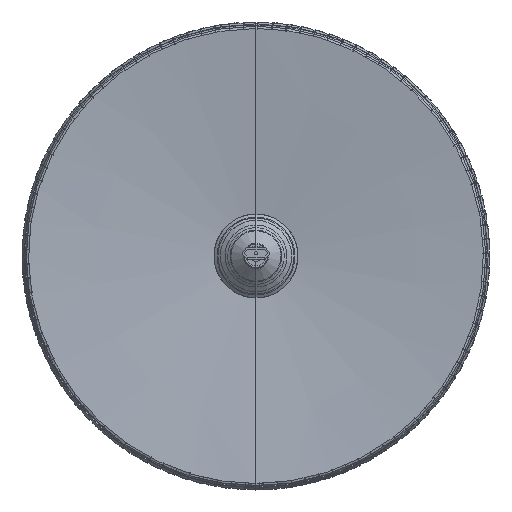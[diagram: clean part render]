
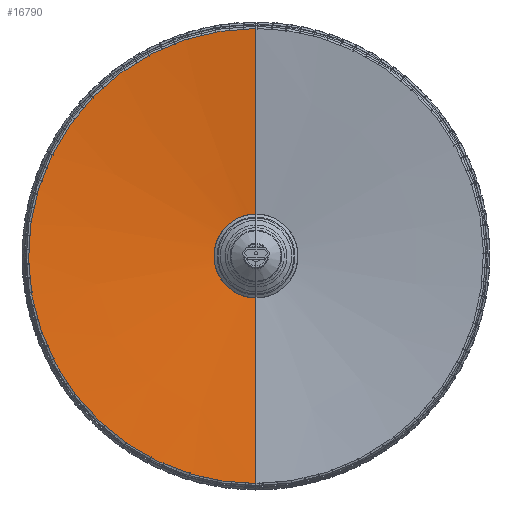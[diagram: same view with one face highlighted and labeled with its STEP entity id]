
A CAD part, top view. The second image highlights one B-rep face of the part: STEP entity #16790.
In plain terms, the highlighted conical face has half-angle 83.881 degrees and reference radius 62.359 mm.
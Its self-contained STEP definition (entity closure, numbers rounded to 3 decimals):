
#418=CONICAL_SURFACE('',#18116,62.359,1.464);
#1602=B_SPLINE_CURVE_WITH_KNOTS('',3,(#34768,#34769,#34770,#34771,#34772,
#34773,#34774,#34775,#34776,#34777,#34778,#34779,#34780,#34781,#34782,#34783,
#34784,#34785),.UNSPECIFIED.,.F.,.F.,(4,1,1,1,1,1,1,1,1,1,1,1,1,1,1,4),
(0.,0.067,0.133,0.2,0.267,0.333,
0.4,0.467,0.533,0.6,0.667,0.733,
0.8,0.867,0.933,1.),.UNSPECIFIED.);
#1605=B_SPLINE_CURVE_WITH_KNOTS('',3,(#34807,#34808,#34809,#34810,#34811,
#34812,#34813,#34814),.UNSPECIFIED.,.F.,.F.,(4,1,1,1,1,4),(0.172,
0.333,0.5,0.667,0.833,1.),
 .UNSPECIFIED.);
#1606=B_SPLINE_CURVE_WITH_KNOTS('',3,(#34815,#34816,#34817,#34818,#34819),
 .UNSPECIFIED.,.F.,.F.,(4,1,4),(0.,0.167,0.172),
 .UNSPECIFIED.);
#3026=FACE_OUTER_BOUND('',#4124,.T.);
#4124=EDGE_LOOP('',(#15191,#15192,#15193,#15194,#15195));
#5318=LINE('',#34788,#6511);
#5319=LINE('',#34804,#6512);
#6511=VECTOR('',#21731,304.8);
#6512=VECTOR('',#21732,304.8);
#8108=VERTEX_POINT('',#34643);
#8109=VERTEX_POINT('',#34696);
#8110=VERTEX_POINT('',#34787);
#8112=VERTEX_POINT('',#34798);
#8113=VERTEX_POINT('',#34806);
#10469=EDGE_CURVE('',#8108,#8109,#1602,.T.);
#10470=EDGE_CURVE('',#8110,#8108,#5318,.T.);
#10473=EDGE_CURVE('',#8109,#8112,#5319,.T.);
#10474=EDGE_CURVE('',#8113,#8112,#1605,.T.);
#10475=EDGE_CURVE('',#8110,#8113,#1606,.T.);
#15191=ORIENTED_EDGE('',*,*,#10469,.T.);
#15192=ORIENTED_EDGE('',*,*,#10473,.T.);
#15193=ORIENTED_EDGE('',*,*,#10474,.F.);
#15194=ORIENTED_EDGE('',*,*,#10475,.F.);
#15195=ORIENTED_EDGE('',*,*,#10470,.T.);
#16790=ADVANCED_FACE('',(#3026),#418,.F.);
#18116=AXIS2_PLACEMENT_3D('',#34805,#21733,#21734);
#21731=DIRECTION('',(0.,-0.994,-0.107));
#21732=DIRECTION('',(0.,-0.994,0.107));
#21733=DIRECTION('center_axis',(0.,0.,
-1.));
#21734=DIRECTION('ref_axis',(-0.588,0.809,0.));
#34643=CARTESIAN_POINT('',(0.,-278.169,-0.464));
#34696=CARTESIAN_POINT('',(0.,278.169,-0.464));
#34768=CARTESIAN_POINT('Ctrl Pts',(0.,-278.169,
-0.464));
#34769=CARTESIAN_POINT('Ctrl Pts',(-19.426,-278.2,
-0.464));
#34770=CARTESIAN_POINT('Ctrl Pts',(-58.256,-274.072,
-0.464));
#34771=CARTESIAN_POINT('Ctrl Pts',(-113.973,-255.989,
-0.464));
#34772=CARTESIAN_POINT('Ctrl Pts',(-164.703,-226.694,
-0.464));
#34773=CARTESIAN_POINT('Ctrl Pts',(-208.237,-187.497,
-0.464));
#34774=CARTESIAN_POINT('Ctrl Pts',(-242.669,-140.105,
-0.464));
#34775=CARTESIAN_POINT('Ctrl Pts',(-266.496,-86.59,
-0.464));
#34776=CARTESIAN_POINT('Ctrl Pts',(-278.675,-29.29,-0.464));
#34777=CARTESIAN_POINT('Ctrl Pts',(-278.675,29.29,-0.464));
#34778=CARTESIAN_POINT('Ctrl Pts',(-266.496,86.59,-0.464));
#34779=CARTESIAN_POINT('Ctrl Pts',(-242.669,140.105,-0.464));
#34780=CARTESIAN_POINT('Ctrl Pts',(-208.237,187.497,-0.464));
#34781=CARTESIAN_POINT('Ctrl Pts',(-164.703,226.694,-0.464));
#34782=CARTESIAN_POINT('Ctrl Pts',(-113.973,255.989,-0.464));
#34783=CARTESIAN_POINT('Ctrl Pts',(-58.256,274.072,-0.464));
#34784=CARTESIAN_POINT('Ctrl Pts',(-19.426,278.2,-0.464));
#34785=CARTESIAN_POINT('Ctrl Pts',(0.,278.169,
-0.464));
#34787=CARTESIAN_POINT('',(0.,-38.38,25.241));
#34788=CARTESIAN_POINT('',(0.,-38.38,25.241));
#34798=CARTESIAN_POINT('',(0.,38.38,25.241));
#34804=CARTESIAN_POINT('',(0.,278.169,-0.464));
#34805=CARTESIAN_POINT('Origin',(0.,0.,
22.67));
#34806=CARTESIAN_POINT('',(-19.734,-32.913,25.241));
#34807=CARTESIAN_POINT('Ctrl Pts',(-19.734,-32.913,
25.241));
#34808=CARTESIAN_POINT('Ctrl Pts',(-25.275,-29.541,
25.241));
#34809=CARTESIAN_POINT('Ctrl Pts',(-34.86,-19.893,
25.241));
#34810=CARTESIAN_POINT('Ctrl Pts',(-40.169,0.,
25.241));
#34811=CARTESIAN_POINT('Ctrl Pts',(-34.803,20.104,25.241));
#34812=CARTESIAN_POINT('Ctrl Pts',(-20.047,34.723,25.241));
#34813=CARTESIAN_POINT('Ctrl Pts',(-6.782,38.53,25.241));
#34814=CARTESIAN_POINT('Ctrl Pts',(0.,38.38,
25.241));
#34815=CARTESIAN_POINT('Ctrl Pts',(0.,-38.38,
25.241));
#34816=CARTESIAN_POINT('Ctrl Pts',(-6.782,-38.53,
25.241));
#34817=CARTESIAN_POINT('Ctrl Pts',(-13.624,-36.566,
25.241));
#34818=CARTESIAN_POINT('Ctrl Pts',(-19.554,-33.023,25.241));
#34819=CARTESIAN_POINT('Ctrl Pts',(-19.734,-32.913,
25.241));
